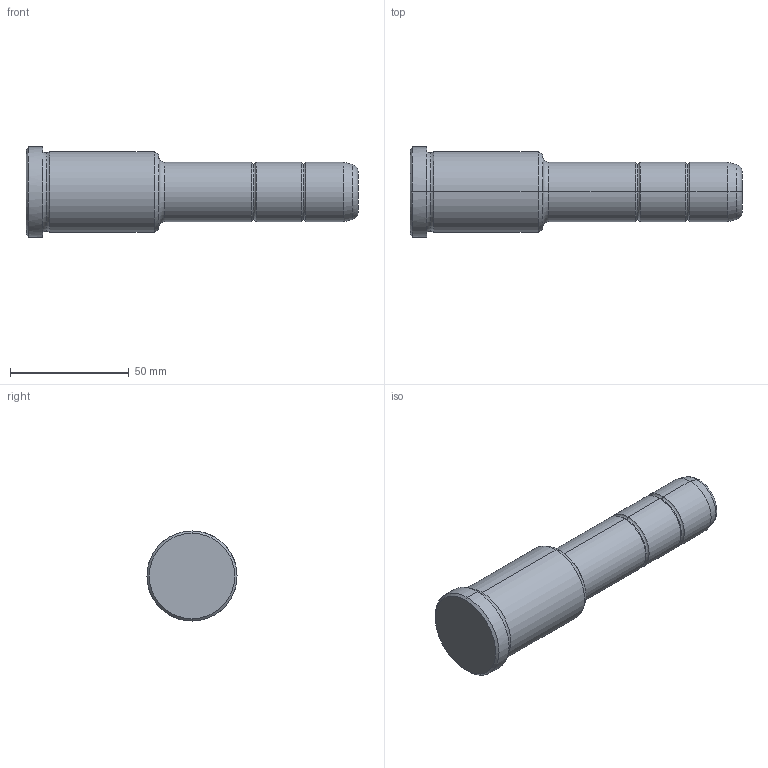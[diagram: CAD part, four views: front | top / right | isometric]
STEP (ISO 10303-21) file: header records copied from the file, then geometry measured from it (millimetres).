
FILE_DESCRIPTION(('CATIA V5 STEP Exchange'),'2;1');
FILE_NAME('C:\Users\Utente\Desktop\IO LAVORO\3D X SITO CF\X SITO\PLASTICA\351\351-25X56X140.stp','2021-09-07T10:18:58+00:00',('none'),('none'),'CATIA Version 5 Release 20 GA (IN-10)','CATIA V5 STEP AP203','none');
FILE_SCHEMA(('CONFIG_CONTROL_DESIGN'));
Length unit declared in the file: millimetre
Products named in the file (1): 351-25X56X140
Bounding box: 140 x 38 x 38 mm (x, y, z)
Volume: 92871.2 mm3; surface area: 14625.1 mm2
Topology: 1 solids, 1 shells, 36 faces, 102 edges, 70 vertices
Faces by surface type: torus 16, cylinder 10, cone 6, plane 4
Entity records: 1292 total; most frequent: CARTESIAN_POINT 321, ORIENTED_EDGE 204, DIRECTION 166, AXIS2_PLACEMENT_3D 115, EDGE_CURVE 102, CIRCLE 78, VERTEX_POINT 70, EDGE_LOOP 38
